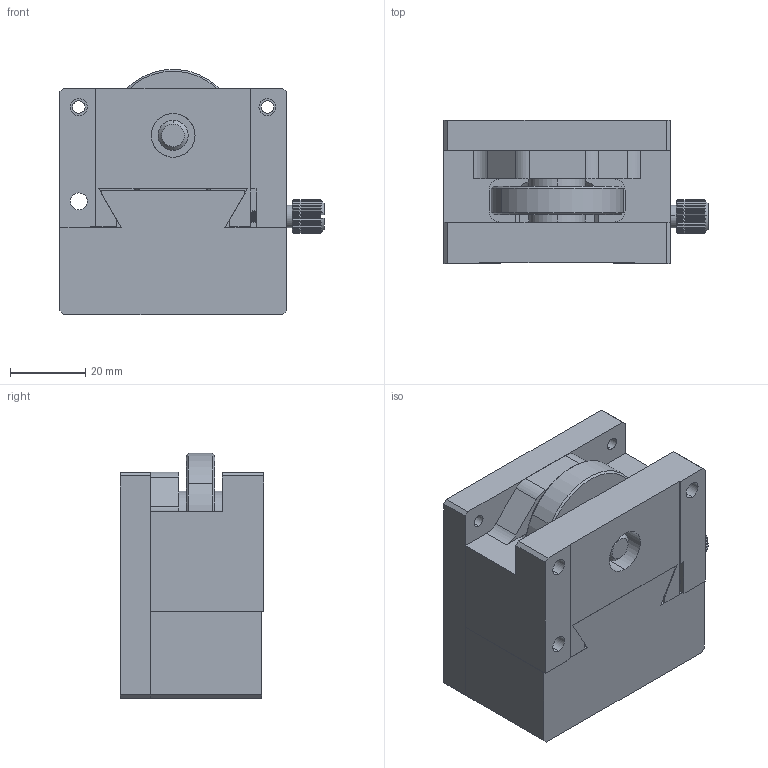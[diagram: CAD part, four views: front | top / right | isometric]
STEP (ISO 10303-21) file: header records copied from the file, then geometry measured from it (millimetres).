
FILE_DESCRIPTION (( 'STEP AP203' ), '1' );
FILE_NAME ('BFDZ60.STEP', '2022-06-24T10:26:42', ( '' ), ( '' ), 'SwSTEP 2.0', 'SolidWorks 2018', '' );
FILE_SCHEMA (( 'CONFIG_CONTROL_DESIGN' ));
Length unit declared in the file: millimetre
Products named in the file (9): ZD60-2; 坶踡蹟佪M3-D9L10; ZD60-7; ZD60-3; ZD60-4; ZD60-1; BFDZ60; ZD60-6; ZD60-5
Assembly tree (9 placements, depth 2):
  BFDZ60
    ZD60-3
    ZD60-2
    ZD60-1
    ZD60-4
    ZD60-5
    ZD60-6
    ZD60-7  x2
    坶踡蹟佪M3-D9L10
Bounding box: 70 x 38 x 64.98 mm (x, y, z)
Volume: 121178.1 mm3; surface area: 39605.4 mm2
Topology: 9 solids, 9 shells, 395 faces, 1074 edges, 700 vertices
Faces by surface type: cylinder 207, plane 149, cone 32, bspline 7
Entity records: 23788 total; most frequent: CARTESIAN_POINT 13224, ORIENTED_EDGE 2104, DIRECTION 1838, EDGE_CURVE 1052, VERTEX_POINT 692, AXIS2_PLACEMENT_3D 677, LINE 484, VECTOR 484
